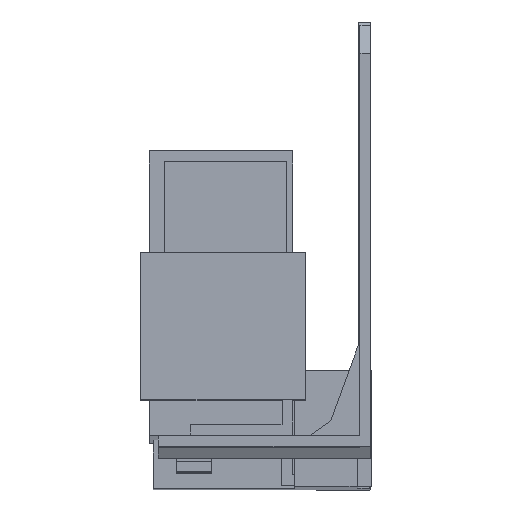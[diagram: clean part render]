
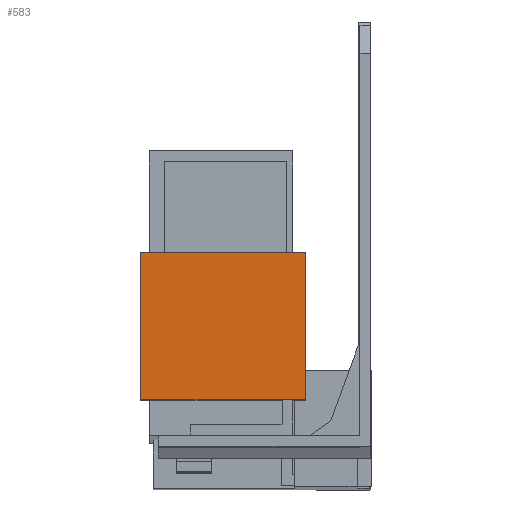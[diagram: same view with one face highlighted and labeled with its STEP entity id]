
A CAD part, front view. The second image highlights one B-rep face of the part: STEP entity #583.
In plain terms, the highlighted planar face has unit normal (0, -1, 0.003).
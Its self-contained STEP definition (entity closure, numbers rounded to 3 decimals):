
#59 = VERTEX_POINT ( 'NONE', #332 ) ;
#77 = VERTEX_POINT ( 'NONE', #6658 ) ;
#241 = VERTEX_POINT ( 'NONE', #6769 ) ;
#244 = VERTEX_POINT ( 'NONE', #6751 ) ;
#332 = CARTESIAN_POINT ( 'NONE',  ( -9.3, -28.952, -19.322 ) ) ;
#583 = ADVANCED_FACE ( 'NONE', ( #4169 ), #2782, .T. ) ;
#718 = EDGE_CURVE ( 'NONE', #77, #59, #4349, .T. ) ;
#747 = EDGE_CURVE ( 'NONE', #77, #244, #4403, .T. ) ;
#1286 = LINE ( 'NONE', #2271, #1287 ) ;
#1287 = VECTOR ( 'NONE', #2272, 1000. ) ;
#1308 = VECTOR ( 'NONE', #2321, 1000. ) ;
#1323 = LINE ( 'NONE', #2319, #1308 ) ;
#2271 = CARTESIAN_POINT ( 'NONE',  ( -32.7, -29.009, -40.322 ) ) ;
#2272 = DIRECTION ( 'NONE',  ( 0., 0.003, 1. ) ) ;
#2319 = CARTESIAN_POINT ( 'NONE',  ( -9.3, -28.952, -19.322 ) ) ;
#2321 = DIRECTION ( 'NONE',  ( -1., 0., 0. ) ) ;
#2782 = PLANE ( 'NONE',  #6536 ) ;
#2785 = CARTESIAN_POINT ( 'NONE',  ( -9.3, -29.009, -40.322 ) ) ;
#2791 = DIRECTION ( 'NONE',  ( 0., -1., 0.003 ) ) ;
#2792 = DIRECTION ( 'NONE',  ( 1., 0., 0. ) ) ;
#3131 = CARTESIAN_POINT ( 'NONE',  ( -9.3, -29.009, -40.322 ) ) ;
#3134 = DIRECTION ( 'NONE',  ( 0., 0.003, 1. ) ) ;
#3191 = CARTESIAN_POINT ( 'NONE',  ( -9.3, -29.009, -40.322 ) ) ;
#3194 = DIRECTION ( 'NONE',  ( -1., 0., 0. ) ) ;
#4169 = FACE_OUTER_BOUND ( 'NONE', #5681, .T. ) ;
#4349 = LINE ( 'NONE', #3131, #4359 ) ;
#4359 = VECTOR ( 'NONE', #3134, 1000. ) ;
#4403 = LINE ( 'NONE', #3191, #4408 ) ;
#4408 = VECTOR ( 'NONE', #3194, 1000. ) ;
#5477 = EDGE_CURVE ( 'NONE', #244, #241, #1286, .T. ) ;
#5681 = EDGE_LOOP ( 'NONE', ( #5814, #5813, #5812, #5811 ) ) ;
#5811 = ORIENTED_EDGE ( 'NONE', *, *, #718, .T. ) ;
#5812 = ORIENTED_EDGE ( 'NONE', *, *, #747, .F. ) ;
#5813 = ORIENTED_EDGE ( 'NONE', *, *, #5477, .F. ) ;
#5814 = ORIENTED_EDGE ( 'NONE', *, *, #6621, .T. ) ;
#6536 = AXIS2_PLACEMENT_3D ( 'NONE', #2785, #2791, #2792 ) ;
#6621 = EDGE_CURVE ( 'NONE', #59, #241, #1323, .T. ) ;
#6658 = CARTESIAN_POINT ( 'NONE',  ( -9.3, -29.009, -40.322 ) ) ;
#6751 = CARTESIAN_POINT ( 'NONE',  ( -32.7, -29.009, -40.322 ) ) ;
#6769 = CARTESIAN_POINT ( 'NONE',  ( -32.7, -28.952, -19.322 ) ) ;
